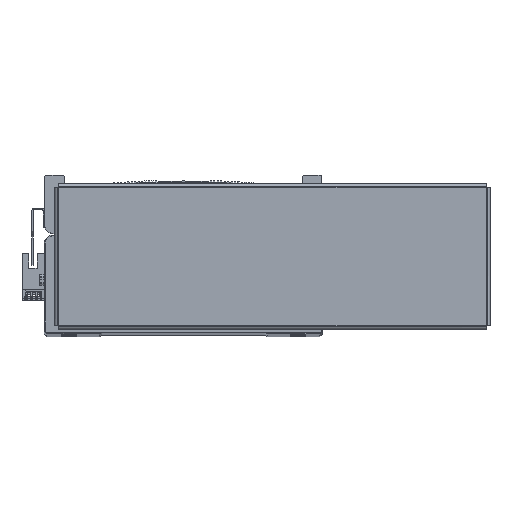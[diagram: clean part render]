
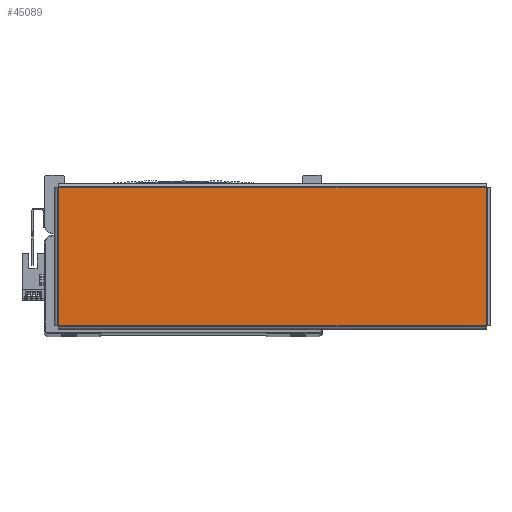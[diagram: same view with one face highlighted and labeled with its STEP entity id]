
A CAD part, top view. The second image highlights one B-rep face of the part: STEP entity #45089.
In plain terms, the highlighted planar face has unit normal (0, 0, 1) as drawn and (0, -1, 0) by its records, which use the part's own axes.
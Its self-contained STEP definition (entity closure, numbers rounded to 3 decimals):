
#8881 = CARTESIAN_POINT ( 'NONE',  ( 130.863, -1.5, -42.263 ) ) ;
#8891 = CARTESIAN_POINT ( 'NONE',  ( 130.863, -1.5, 42.263 ) ) ;
#8943 = CARTESIAN_POINT ( 'NONE',  ( -130.863, -1.5, -42.263 ) ) ;
#8975 = CARTESIAN_POINT ( 'NONE',  ( -130.863, -1.5, 42.263 ) ) ;
#11531 = EDGE_CURVE ( 'NONE', #60408, #60409, #52085, .T. ) ;
#11537 = EDGE_CURVE ( 'NONE', #60416, #60442, #52071, .T. ) ;
#11539 = EDGE_CURVE ( 'NONE', #60442, #60408, #52040, .T. ) ;
#11545 = EDGE_CURVE ( 'NONE', #60409, #60416, #52092, .T. ) ;
#21409 = CARTESIAN_POINT ( 'NONE',  ( 130.863, -1.5, -42.293 ) ) ;
#21410 = DIRECTION ( 'NONE',  ( 0., 0., 1. ) ) ;
#21429 = DIRECTION ( 'NONE',  ( 1., 0., 0. ) ) ;
#21435 = CARTESIAN_POINT ( 'NONE',  ( -130.863, -1.5, 42.293 ) ) ;
#21445 = CARTESIAN_POINT ( 'NONE',  ( 130.893, -1.5, 42.263 ) ) ;
#21467 = CARTESIAN_POINT ( 'NONE',  ( -130.893, -1.5, -42.263 ) ) ;
#21468 = DIRECTION ( 'NONE',  ( -1., 0., 0. ) ) ;
#21469 = DIRECTION ( 'NONE',  ( 0., 0., -1. ) ) ;
#34067 = PLANE ( 'NONE',  #40351 ) ;
#34090 = DIRECTION ( 'NONE',  ( 0., 1., 0. ) ) ;
#34100 = DIRECTION ( 'NONE',  ( 0., 0., 1. ) ) ;
#34118 = CARTESIAN_POINT ( 'NONE',  ( 0., -1.5, 0. ) ) ;
#40351 = AXIS2_PLACEMENT_3D ( 'NONE', #34118, #34090, #34100 ) ;
#41997 = FACE_OUTER_BOUND ( 'NONE', #66122, .T. ) ;
#45089 = ADVANCED_FACE ( 'NONE', ( #41997 ), #34067, .F. ) ;
#52040 = LINE ( 'NONE', #21467, #52065 ) ;
#52048 = VECTOR ( 'NONE', #21410, 1000. ) ;
#52062 = VECTOR ( 'NONE', #21468, 1000. ) ;
#52065 = VECTOR ( 'NONE', #21429, 1000. ) ;
#52071 = LINE ( 'NONE', #21435, #52079 ) ;
#52079 = VECTOR ( 'NONE', #21469, 1000. ) ;
#52085 = LINE ( 'NONE', #21409, #52048 ) ;
#52092 = LINE ( 'NONE', #21445, #52062 ) ;
#60408 = VERTEX_POINT ( 'NONE', #8881 ) ;
#60409 = VERTEX_POINT ( 'NONE', #8891 ) ;
#60416 = VERTEX_POINT ( 'NONE', #8975 ) ;
#60442 = VERTEX_POINT ( 'NONE', #8943 ) ;
#66122 = EDGE_LOOP ( 'NONE', ( #68178, #68203, #68147, #68227 ) ) ;
#68147 = ORIENTED_EDGE ( 'NONE', *, *, #11537, .T. ) ;
#68178 = ORIENTED_EDGE ( 'NONE', *, *, #11531, .T. ) ;
#68203 = ORIENTED_EDGE ( 'NONE', *, *, #11545, .T. ) ;
#68227 = ORIENTED_EDGE ( 'NONE', *, *, #11539, .T. ) ;
